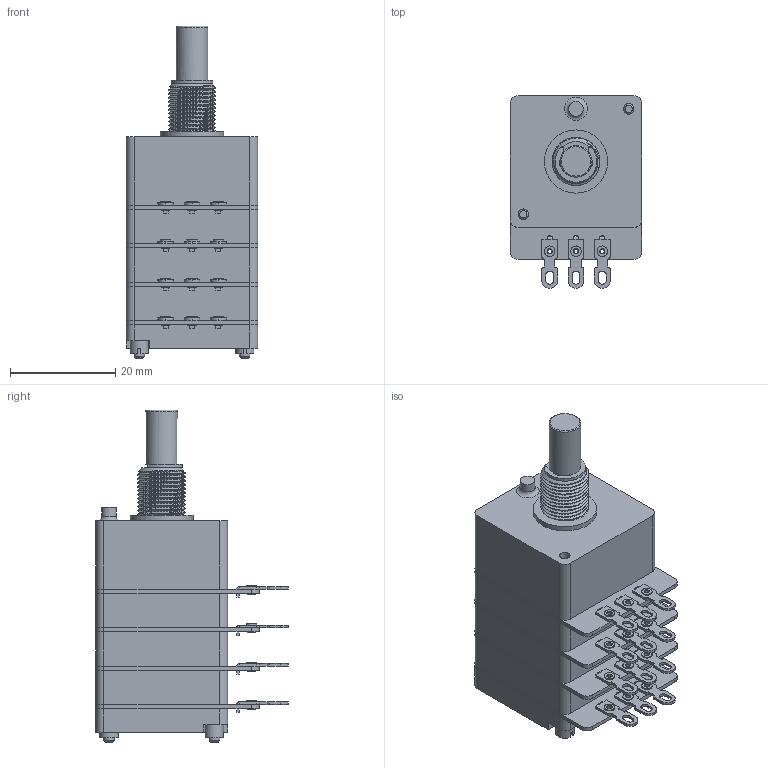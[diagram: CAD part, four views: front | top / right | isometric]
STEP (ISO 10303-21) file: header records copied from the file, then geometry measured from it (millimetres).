
FILE_DESCRIPTION(('FreeCAD Model'),'2;1');
FILE_NAME('Open CASCADE Shape Model','2023-03-22T13:10:35',(''),(''), 'Open CASCADE STEP processor 7.6','FreeCAD','Unknown');
FILE_SCHEMA(('AUTOMOTIVE_DESIGN { 1 0 10303 214 1 1 1 1 }'));
Products named in the file (1): Fusion014021
Bounding box: 25 x 36.5 x 63 mm (x, y, z)
Volume: 26446.1 mm3; surface area: 9070.1 mm2
Topology: 1 solids, 27 shells, 833 faces, 2178 edges, 1373 vertices
Faces by surface type: plane 434, cylinder 329, bspline 38, cone 18, torus 14
Full cylindrical faces by diameter (mm): 0.8 x12, 1.2 x12, 1.25 x12, 1.9 x8, 2 x18, 2.2 x30, 2.8 x1, 3.5 x2, 4.5 x4, 5.4 x1, 6 x1, 9.09 x11, 12 x1
Entity records: 64012 total; most frequent: CARTESIAN_POINT 20197, DIRECTION 7433, ORIENTED_EDGE 4354, PCURVE 4354, DEFINITIONAL_REPRESENTATION 4354, LINE 4114, VECTOR 4114, EDGE_CURVE 2177
